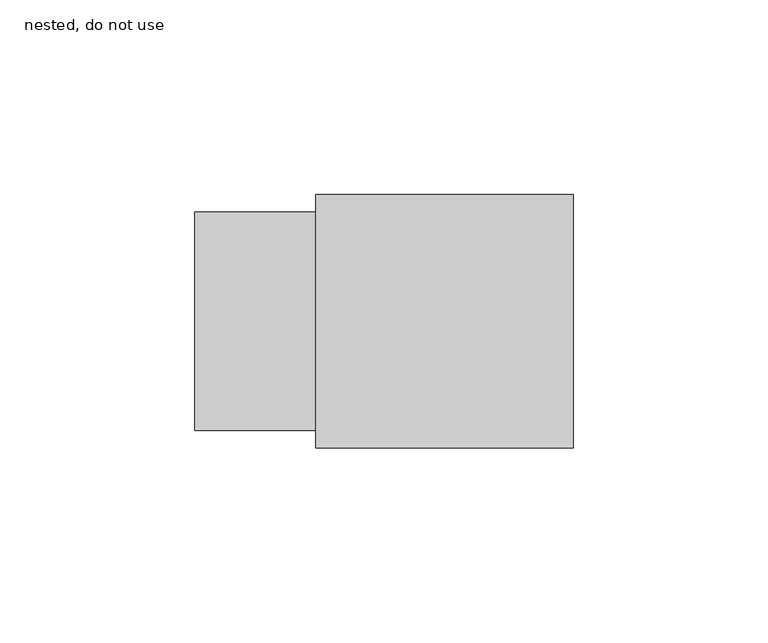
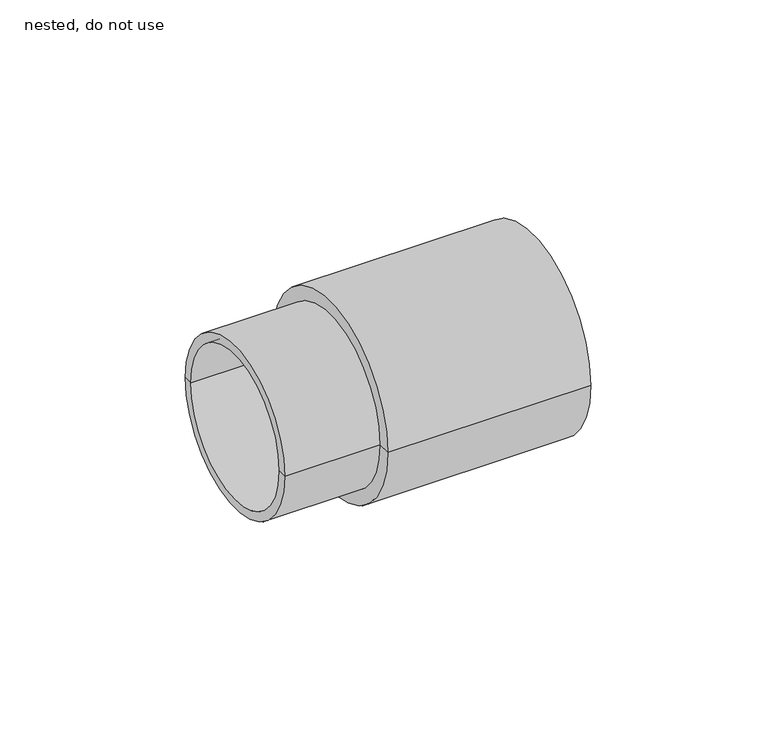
"""IFC4 building model written with IfcOpenShell, lengths in millimetres: pipe fitting geometry, NLRS_52_PIF_UN_Vacurain Flex klikmof_SH_Dyka : nested, do not use."""

from ifc_helpers import new_model, si_unit, frame, origin, place, context, project, spatial, polyline, circle_curve, source, transform, mapped, element, save
from ifc_brep_helpers import plane_surface, cylinder_surface, revolved_surface, advanced_brep


def nested_do_not_use_0ebd4f94(model_context):
    return source(origin(), model_context, "Body", "AdvancedBrep", [
        advanced_brep(
        [(0.0, 25.0, 0.0), (0.0, -25.0, 0.0), (0.0, 0.0, 0.0), (-39.0, 25.0, 0.0), (-39.0, -25.0, 0.0), (-39.0, 28.0, 0.0), (-39.0, -28.0, 0.0), (-8.0, 28.0, 0.0), (-8.0, -28.0, 0.0), (-8.0, 32.5, 0.0), (-8.0, -32.5, 0.0), (58.0, 32.5, 0.0), (58.0, -32.5, 0.0), (27.0, 25.0, 0.0), (27.0, -25.0, 0.0), (58.0, -25.0, 0.0), (58.0, 25.0, 0.0), (27.0, 0.0, 0.0)],
        [
            (0, 1, circle_curve(frame((0.0, 0.0, 0.0), z_axis=(-1.0, 0.0, 0.0), x_axis=(0.0, -1.0, 0.0)), 25.0)),
            (1, 2),
            (2, 0),
            (1, 0, circle_curve(frame((0.0, 0.0, 0.0), z_axis=(-1.0, 0.0, 0.0), x_axis=(0.0, -1.0, 0.0)), 25.0)),
            (3, 4, circle_curve(frame((-39.0, 0.0, 0.0), z_axis=(-1.0, 0.0, 0.0), x_axis=(0.0, -1.0, 0.0)), 25.0)),
            (4, 1),
            (0, 3),
            (4, 3, circle_curve(frame((-39.0, 0.0, 0.0), z_axis=(-1.0, 0.0, 0.0), x_axis=(0.0, -1.0, 0.0)), 25.0)),
            (5, 6, circle_curve(frame((-39.0, 0.0, 0.0), z_axis=(-1.0, 0.0, 0.0), x_axis=(0.0, -1.0, 0.0)), 28.0)),
            (6, 4),
            (3, 5),
            (6, 5, circle_curve(frame((-39.0, 0.0, 0.0), z_axis=(-1.0, 0.0, 0.0), x_axis=(0.0, -1.0, 0.0)), 28.0)),
            (7, 8, circle_curve(frame((-8.0, 0.0, 0.0), z_axis=(-1.0, 0.0, 0.0), x_axis=(0.0, -1.0, 0.0)), 28.0)),
            (8, 6),
            (5, 7),
            (8, 7, circle_curve(frame((-8.0, 0.0, 0.0), z_axis=(-1.0, 0.0, 0.0), x_axis=(0.0, -1.0, 0.0)), 28.0)),
            (9, 10, circle_curve(frame((-8.0, 0.0, 0.0), z_axis=(-1.0, 0.0, 0.0), x_axis=(0.0, -1.0, 0.0)), 32.5)),
            (10, 8),
            (7, 9),
            (10, 9, circle_curve(frame((-8.0, 0.0, 0.0), z_axis=(-1.0, 0.0, 0.0), x_axis=(0.0, -1.0, 0.0)), 32.5)),
            (11, 12, circle_curve(frame((58.0, 0.0, 0.0), z_axis=(-1.0, 0.0, 0.0), x_axis=(0.0, -1.0, 0.0)), 32.5)),
            (12, 10),
            (9, 11),
            (12, 11, circle_curve(frame((58.0, 0.0, 0.0), z_axis=(-1.0, 0.0, 0.0), x_axis=(0.0, -1.0, 0.0)), 32.5)),
            (13, 14, circle_curve(frame((27.0, 0.0, 0.0), z_axis=(-1.0, 0.0, 0.0), x_axis=(0.0, -1.0, 0.0)), 25.0)),
            (14, 15),
            (15, 16, circle_curve(frame((58.0, 0.0, 0.0), z_axis=(1.0, 0.0, 0.0), x_axis=(0.0, -1.0, 0.0)), 25.0)),
            (16, 13),
            (14, 13, circle_curve(frame((27.0, 0.0, 0.0), z_axis=(-1.0, 0.0, 0.0), x_axis=(0.0, -1.0, 0.0)), 25.0)),
            (16, 15, circle_curve(frame((58.0, 0.0, 0.0), z_axis=(1.0, 0.0, 0.0), x_axis=(0.0, -1.0, 0.0)), 25.0)),
            (17, 14),
            (13, 17),
            (15, 12),
            (11, 16),
        ],
        [
            plane_surface(frame((0.0, 0.0, 0.0), z_axis=(-1.0, 0.0, 0.0), x_axis=(0.0, -1.0, 0.0))),
            revolved_surface(polyline([(0.0, -25.0, 0.0), (-39.0, -25.0, 0.0)]), (1955.5833127, 0.0, 0.0), (1.0, 0.0, 0.0)),
            plane_surface(frame((-39.0, 0.0, 0.0), z_axis=(-1.0, 0.0, 0.0), x_axis=(0.0, -1.0, 0.0))),
            cylinder_surface(frame((1955.5833127, 0.0, 0.0), z_axis=(1.0, 0.0, 0.0), x_axis=(0.0, -1.0, 0.0)), 28.0),
            plane_surface(frame((-8.0, 0.0, 0.0), z_axis=(-1.0, 0.0, 0.0), x_axis=(0.0, -1.0, 0.0))),
            cylinder_surface(frame((1955.5833127, 0.0, 0.0), z_axis=(1.0, 0.0, 0.0), x_axis=(0.0, -1.0, 0.0)), 32.5),
            revolved_surface(polyline([(58.0, -25.0, 0.0), (27.0, -25.0, 0.0)]), (1955.5833127, 0.0, 0.0), (1.0, 0.0, 0.0)),
            plane_surface(frame((27.0, 0.0, 0.0), z_axis=(1.0, 0.0, 0.0), x_axis=(0.0, -1.0, 0.0))),
            plane_surface(frame((58.0, 0.0, 0.0), z_axis=(1.0, 0.0, 0.0), x_axis=(0.0, -1.0, 0.0))),
        ],
        [
            (0, [[1, 2, 3]]),
            (0, [[4, -3, -2]]),
            (1, [[5, 6, -1, 7]]),
            (1, [[8, -7, -4, -6]]),
            (2, [[9, 10, -5, 11]]),
            (2, [[12, -11, -8, -10]]),
            (3, [[13, 14, -9, 15]]),
            (3, [[16, -15, -12, -14]]),
            (4, [[17, 18, -13, 19]]),
            (4, [[20, -19, -16, -18]]),
            (5, [[21, 22, -17, 23]]),
            (5, [[24, -23, -20, -22]]),
            (6, [[25, 26, 27, 28]]),
            (6, [[29, -28, 30, -26]]),
            (7, [[31, -25, 32]]),
            (7, [[-32, -29, -31]]),
            (8, [[-27, 33, -21, 34]]),
            (8, [[-30, -34, -24, -33]]),
        ],
    ),
    ])


if __name__ == "__main__":
    model = new_model("IFC4")
    model_context = context("Model", 3, world=origin())
    ifc_project = project(units=[si_unit("LENGTHUNIT", "METRE", prefix="MILLI")], contexts=[model_context])
    site = spatial("IfcSite", under=ifc_project)
    building = spatial("IfcBuilding", under=site)
    placement = place(None, origin())
    nested_do_not_use_shape = nested_do_not_use_0ebd4f94(model_context)
    element("IfcPipeFitting", 1, ObjectType="NLRS_52_PIF_UN_Vacurain Flex klikmof_SH_Dyka : nested, do not use", at=placement, inside=building, context=model_context, shape_type="MappedRepresentation", body=[
        mapped(nested_do_not_use_shape, transform((0.0, 0.0, 0.0), x_axis=(1.0, 0.0, 0.0), y_axis=(0.0, 1.0, 0.0), z_axis=(0.0, 0.0, 1.0))),
    ])
    save(model, "model.ifc")
